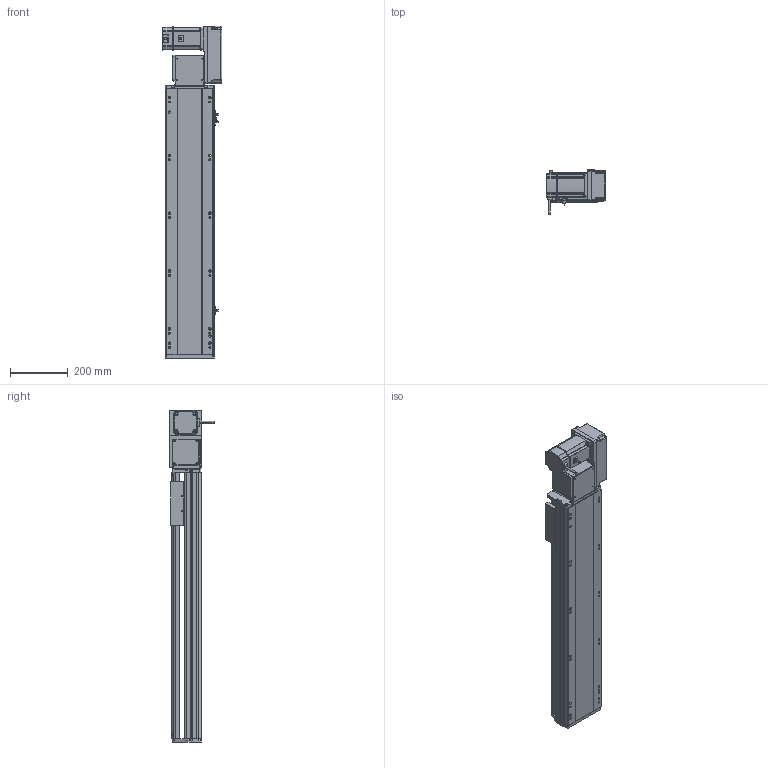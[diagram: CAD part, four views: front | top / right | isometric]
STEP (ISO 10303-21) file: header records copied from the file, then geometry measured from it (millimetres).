
FILE_DESCRIPTION (( 'STEP AP214' ), '1' );
FILE_NAME ('RTB17S-XX-650-R-M75-C4.STEP', '2025-12-12T01:31:35', ( '' ), ( '' ), 'SwSTEP 2.0', 'SolidWorks 2018', '' );
FILE_SCHEMA (( 'AUTOMOTIVE_DESIGN' ));
Length unit declared in the file: millimetre
Products named in the file (15): RTB17S-R-々湍釱蚾饜-750W^RTB17S-XX-XX-R-M75-C4; RTB22S-GY-008-M75--萇儂啣^RTB17S-R-々湍釱蚾饜-750W_RTB17S-XX-XX-R-M75-C4; 750W萇儂^RTB17S-XX-XX-R-M75-C4; RTB17S-賑釱^RTB17S-XX-XX-R-M75-C4; RTB17S-L-014-T20-P75--々湍釱^RTB17S-R-々湍釱蚾饜-750W_RTB17S-XX-XX-R-M75-C4; RTB22S-GY-018P^RTB17S-R-々湍釱蚾饜-750W_RTB17S-XX-XX-R-M75-C4; RTH13-BL-012覜茼え俋离^RTB17S-賑釱_RTB17S-XX-XX-R-M75-C4; RTB17S-L-001-耜醱啣^RTB17S-XX-XX-R-M75-C4; EE672^RTB17S-XX-XX-R-M75-C4; RTB17S-L-004-賑釱^RTB17S-賑釱_RTB17S-XX-XX-R-M75-C4; RTB22S-GY-017P^RTB17S-R-々湍釱蚾饜-750W_RTB17S-XX-XX-R-M75-C4; RTB17S-L-007奻裔^RTB17S-XX-XX-R-M75-C4; RTB17-R-011菁釱^RTB17S-XX-XX-R-M75-C4; RTB22S-GY-005P^RTB17S-R-々湍釱蚾饜-750W_RTB17S-XX-XX-R-M75-C4; RTB17S-XX-650-R-M75-C4
Assembly tree (17 placements, depth 3):
  RTB17S-XX-650-R-M75-C4
    RTB17-R-011菁釱^RTB17S-XX-XX-R-M75-C4
    EE672^RTB17S-XX-XX-R-M75-C4  x3
    RTB17S-L-001-耜醱啣^RTB17S-XX-XX-R-M75-C4
    RTB17S-賑釱^RTB17S-XX-XX-R-M75-C4
      RTB17S-L-004-賑釱^RTB17S-賑釱_RTB17S-XX-XX-R-M75-C4
      RTH13-BL-012覜茼え俋离^RTB17S-賑釱_RTB17S-XX-XX-R-M75-C4
    RTB17S-L-007奻裔^RTB17S-XX-XX-R-M75-C4
    750W萇儂^RTB17S-XX-XX-R-M75-C4
    RTB17S-R-々湍釱蚾饜-750W^RTB17S-XX-XX-R-M75-C4
      RTB17S-L-014-T20-P75--々湍釱^RTB17S-R-々湍釱蚾饜-750W_RTB17S-XX-XX-R-M75-C4
      RTB22S-GY-005P^RTB17S-R-々湍釱蚾饜-750W_RTB17S-XX-XX-R-M75-C4
      RTB22S-GY-017P^RTB17S-R-々湍釱蚾饜-750W_RTB17S-XX-XX-R-M75-C4  x2
      RTB22S-GY-008-M75--萇儂啣^RTB17S-R-々湍釱蚾饜-750W_RTB17S-XX-XX-R-M75-C4
      RTB22S-GY-018P^RTB17S-R-々湍釱蚾饜-750W_RTB17S-XX-XX-R-M75-C4
Bounding box: 207.4 x 152.7 x 1149 mm (x, y, z)
Volume: 10007991.2 mm3; surface area: 1642802.5 mm2
Topology: 17 solids, 17 shells, 2073 faces, 5728 edges, 3698 vertices
Faces by surface type: plane 968, cylinder 689, bspline 294, cone 110, sphere 8, torus 4
Entity records: 57334 total; most frequent: CARTESIAN_POINT 16792, ORIENTED_EDGE 8300, DIRECTION 7772, EDGE_CURVE 4150, AXIS2_PLACEMENT_3D 2718, VERTEX_POINT 2702, VECTOR 2336, LINE 2336
